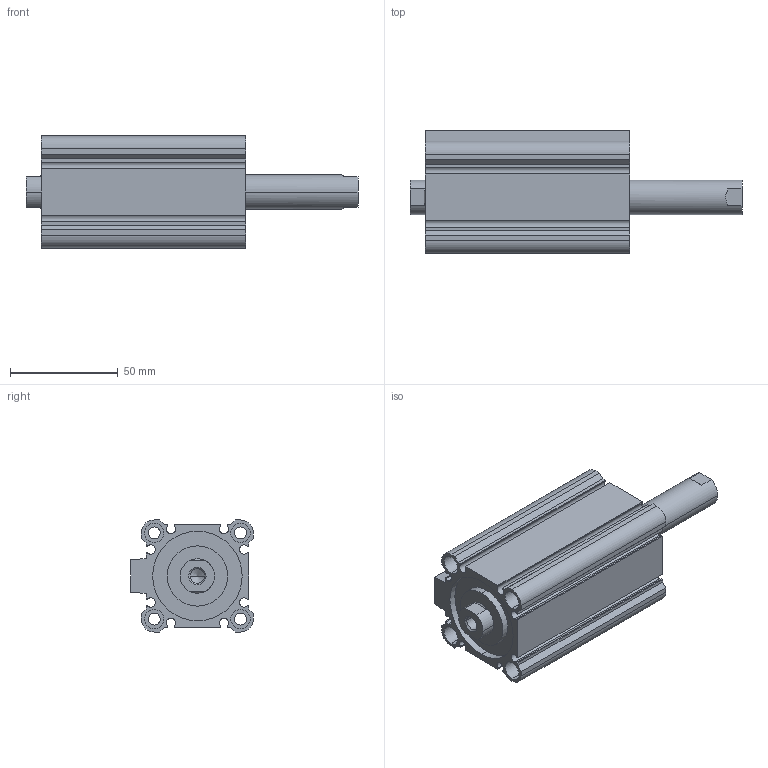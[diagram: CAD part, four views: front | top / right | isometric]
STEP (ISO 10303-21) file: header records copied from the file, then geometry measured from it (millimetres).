
FILE_DESCRIPTION (( 'STEP AP203' ), '1' );
FILE_NAME ('CCMB40-45F-P.STEP', '2020-08-05T11:25:04', ( '' ), ( '' ), 'SwSTEP 2.0', 'SolidWorks 2019', '' );
FILE_SCHEMA (( 'CONFIG_CONTROL_DESIGN' ));
Length unit declared in the file: millimetre
Products named in the file (1): CCMB40-45F-P
Bounding box: 154 x 57 x 52 mm (x, y, z)
Volume: 172400 mm3; surface area: 65660.9 mm2
Topology: 2 solids, 2 shells, 164 faces, 414 edges, 270 vertices
Faces by surface type: plane 78, cylinder 74, cone 12
Entity records: 5029 total; most frequent: DIRECTION 896, CARTESIAN_POINT 857, ORIENTED_EDGE 820, EDGE_CURVE 410, AXIS2_PLACEMENT_3D 325, VERTEX_POINT 270, LINE 246, VECTOR 246
